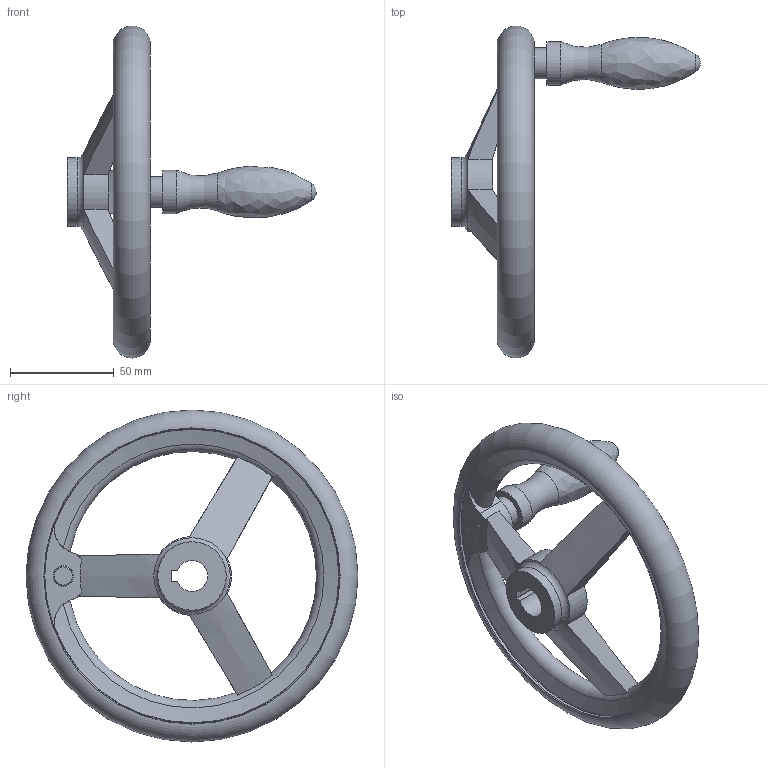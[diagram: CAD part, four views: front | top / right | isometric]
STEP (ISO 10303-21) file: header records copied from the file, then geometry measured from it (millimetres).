
FILE_DESCRIPTION( ( 'STEP AP203' ), '1' );
FILE_NAME( 'C:/Temp/Ganter_Step_05_03_2020/data/1_3/din_950/din_950_k/din_950_k_d/Handwheel DIN 950-AL-160-K15-D.stp', '2020-03-05T10:30:54', ( 'License CC BY-ND 4.0' ), ( 'CADENAS' ), ' ', 'PARTsolutions', ' ' );
FILE_SCHEMA( ( 'CONFIG_CONTROL_DESIGN' ) );
Length unit declared in the file: millimetre
Products named in the file (1): _Handwheel DIN 950-AL-160-K15-D
Bounding box: 120 x 159.98 x 159.98 mm (x, y, z)
Volume: 175754.3 mm3; surface area: 44117.2 mm2
Topology: 1 solids, 1 shells, 49 faces, 134 edges, 85 vertices
Faces by surface type: cylinder 15, plane 15, torus 11, cone 6, bspline 1, sphere 1
Full cylindrical faces by diameter (mm): 15 x1, 21 x1, 33 x2, 142 x2
Entity records: 1799 total; most frequent: CARTESIAN_POINT 637, DIRECTION 226, ORIENTED_EDGE 216, EDGE_CURVE 108, AXIS2_PLACEMENT_3D 102, VERTEX_POINT 81, EDGE_LOOP 75, FACE_OUTER_BOUND 64
